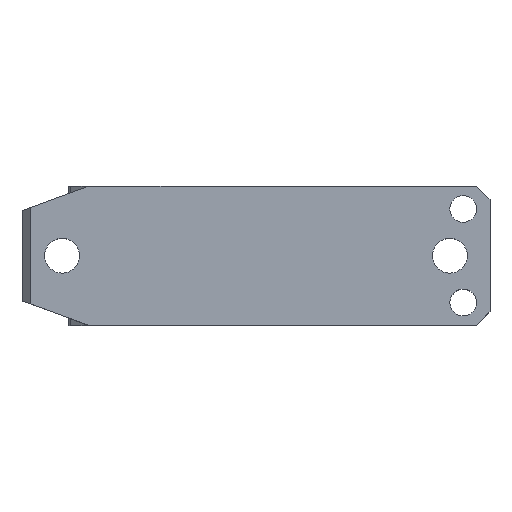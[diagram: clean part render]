
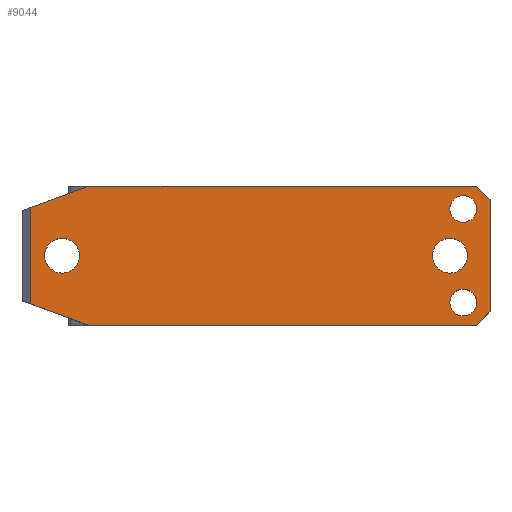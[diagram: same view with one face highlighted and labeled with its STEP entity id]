
A CAD part, top view. The second image highlights one B-rep face of the part: STEP entity #9044.
In plain terms, the highlighted planar face has unit normal (0, 0, 1).
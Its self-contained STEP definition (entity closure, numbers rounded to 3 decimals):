
#104 = ORIENTED_EDGE ( 'NONE', *, *, #5748, .T. ) ;
#230 = FACE_BOUND ( 'NONE', #7357, .T. ) ;
#253 = DIRECTION ( 'NONE',  ( -1., 0., 0. ) ) ;
#321 = CARTESIAN_POINT ( 'NONE',  ( -22., 0., 125. ) ) ;
#416 = AXIS2_PLACEMENT_3D ( 'NONE', #321, #6820, #1247 ) ;
#440 = CARTESIAN_POINT ( 'NONE',  ( -12., 26., 125. ) ) ;
#466 = LINE ( 'NONE', #7681, #2029 ) ;
#485 = CARTESIAN_POINT ( 'NONE',  ( 123., 0., 125. ) ) ;
#520 = VERTEX_POINT ( 'NONE', #2111 ) ;
#523 = CIRCLE ( 'NONE', #4905, 5. ) ;
#541 = EDGE_CURVE ( 'NONE', #2462, #11656, #466, .T. ) ;
#563 = CIRCLE ( 'NONE', #9062, 6.5 ) ;
#576 = VECTOR ( 'NONE', #4380, 1000. ) ;
#649 = ORIENTED_EDGE ( 'NONE', *, *, #9102, .F. ) ;
#748 = CARTESIAN_POINT ( 'NONE',  ( 133., -17.5, 125. ) ) ;
#819 = DIRECTION ( 'NONE',  ( 0., 0., -1. ) ) ;
#872 = CIRCLE ( 'NONE', #1808, 5. ) ;
#883 = EDGE_CURVE ( 'NONE', #1614, #10210, #1321, .T. ) ;
#888 = VERTEX_POINT ( 'NONE', #748 ) ;
#956 = EDGE_CURVE ( 'NONE', #888, #3661, #7848, .T. ) ;
#991 = CARTESIAN_POINT ( 'NONE',  ( 128., 17.5, 125. ) ) ;
#1091 = VERTEX_POINT ( 'NONE', #8511 ) ;
#1247 = DIRECTION ( 'NONE',  ( -1., 0., 0. ) ) ;
#1316 = PLANE ( 'NONE',  #2781 ) ;
#1321 = LINE ( 'NONE', #6298, #10593 ) ;
#1347 = CIRCLE ( 'NONE', #416, 6.5 ) ;
#1414 = DIRECTION ( 'NONE',  ( -1., 0., 0. ) ) ;
#1535 = CARTESIAN_POINT ( 'NONE',  ( 128., 17.5, 125. ) ) ;
#1614 = VERTEX_POINT ( 'NONE', #2898 ) ;
#1643 = CIRCLE ( 'NONE', #3184, 5. ) ;
#1651 = CARTESIAN_POINT ( 'NONE',  ( 129.5, 0., 125. ) ) ;
#1808 = AXIS2_PLACEMENT_3D ( 'NONE', #3690, #10177, #4642 ) ;
#1888 = DIRECTION ( 'NONE',  ( -1., 0., 0. ) ) ;
#1923 = EDGE_CURVE ( 'NONE', #11005, #6886, #523, .T. ) ;
#2029 = VECTOR ( 'NONE', #9538, 1000. ) ;
#2111 = CARTESIAN_POINT ( 'NONE',  ( -12., -26., 125. ) ) ;
#2118 = ORIENTED_EDGE ( 'NONE', *, *, #883, .T. ) ;
#2236 = DIRECTION ( 'NONE',  ( -1., 0., 0. ) ) ;
#2246 = ORIENTED_EDGE ( 'NONE', *, *, #7248, .T. ) ;
#2276 = CARTESIAN_POINT ( 'NONE',  ( -37., -16.901, 125. ) ) ;
#2280 = EDGE_CURVE ( 'NONE', #6886, #11005, #1643, .T. ) ;
#2399 = FACE_OUTER_BOUND ( 'NONE', #4305, .T. ) ;
#2462 = VERTEX_POINT ( 'NONE', #5551 ) ;
#2464 = VECTOR ( 'NONE', #9944, 1000. ) ;
#2466 = DIRECTION ( 'NONE',  ( -1., 0., 0. ) ) ;
#2574 = CIRCLE ( 'NONE', #2765, 6.5 ) ;
#2678 = FACE_BOUND ( 'NONE', #2940, .T. ) ;
#2725 = LINE ( 'NONE', #10109, #3019 ) ;
#2765 = AXIS2_PLACEMENT_3D ( 'NONE', #6367, #819, #7305 ) ;
#2781 = AXIS2_PLACEMENT_3D ( 'NONE', #4082, #7810, #2236 ) ;
#2798 = EDGE_CURVE ( 'NONE', #1614, #7591, #6009, .T. ) ;
#2898 = CARTESIAN_POINT ( 'NONE',  ( -34., 17.993, 125. ) ) ;
#2940 = EDGE_LOOP ( 'NONE', ( #7608, #7159 ) ) ;
#2943 = AXIS2_PLACEMENT_3D ( 'NONE', #11339, #5812, #253 ) ;
#3019 = VECTOR ( 'NONE', #6394, 1000. ) ;
#3051 = CARTESIAN_POINT ( 'NONE',  ( 138., 21., 125. ) ) ;
#3184 = AXIS2_PLACEMENT_3D ( 'NONE', #1535, #8026, #2466 ) ;
#3199 = EDGE_CURVE ( 'NONE', #3876, #11426, #1347, .T. ) ;
#3217 = CARTESIAN_POINT ( 'NONE',  ( -37., 16.901, 125. ) ) ;
#3596 = CARTESIAN_POINT ( 'NONE',  ( 128., -17.5, 125. ) ) ;
#3661 = VERTEX_POINT ( 'NONE', #10106 ) ;
#3690 = CARTESIAN_POINT ( 'NONE',  ( 128., -17.5, 125. ) ) ;
#3876 = VERTEX_POINT ( 'NONE', #8652 ) ;
#3987 = CIRCLE ( 'NONE', #2943, 6.5 ) ;
#4082 = CARTESIAN_POINT ( 'NONE',  ( -37., 26., 125. ) ) ;
#4305 = EDGE_LOOP ( 'NONE', ( #5263, #2118, #649, #7486, #4341, #8089, #9681, #6744 ) ) ;
#4341 = ORIENTED_EDGE ( 'NONE', *, *, #11858, .F. ) ;
#4380 = DIRECTION ( 'NONE',  ( 0., -1., 0. ) ) ;
#4549 = DIRECTION ( 'NONE',  ( -1., 0., 0. ) ) ;
#4642 = DIRECTION ( 'NONE',  ( -1., 0., 0. ) ) ;
#4872 = FACE_BOUND ( 'NONE', #7204, .T. ) ;
#4880 = VECTOR ( 'NONE', #8003, 1000. ) ;
#4905 = AXIS2_PLACEMENT_3D ( 'NONE', #991, #7482, #1888 ) ;
#4908 = CARTESIAN_POINT ( 'NONE',  ( 123., 17.5, 125. ) ) ;
#5179 = LINE ( 'NONE', #10753, #4880 ) ;
#5263 = ORIENTED_EDGE ( 'NONE', *, *, #2798, .F. ) ;
#5320 = EDGE_CURVE ( 'NONE', #520, #11104, #11752, .T. ) ;
#5332 = CARTESIAN_POINT ( 'NONE',  ( -34., -17.993, 125. ) ) ;
#5356 = DIRECTION ( 'NONE',  ( 0., -1., 0. ) ) ;
#5497 = LINE ( 'NONE', #9930, #576 ) ;
#5551 = CARTESIAN_POINT ( 'NONE',  ( 133., 26., 125. ) ) ;
#5628 = EDGE_LOOP ( 'NONE', ( #104, #5929 ) ) ;
#5707 = VECTOR ( 'NONE', #9714, 1000. ) ;
#5748 = EDGE_CURVE ( 'NONE', #3661, #888, #872, .T. ) ;
#5812 = DIRECTION ( 'NONE',  ( 0., 0., -1. ) ) ;
#5929 = ORIENTED_EDGE ( 'NONE', *, *, #956, .T. ) ;
#6009 = LINE ( 'NONE', #3217, #5707 ) ;
#6207 = EDGE_CURVE ( 'NONE', #11656, #1091, #5497, .T. ) ;
#6298 = CARTESIAN_POINT ( 'NONE',  ( -34., 26., 125. ) ) ;
#6367 = CARTESIAN_POINT ( 'NONE',  ( 123., 0., 125. ) ) ;
#6394 = DIRECTION ( 'NONE',  ( 1., 0., 0. ) ) ;
#6664 = EDGE_CURVE ( 'NONE', #10687, #11403, #563, .T. ) ;
#6744 = ORIENTED_EDGE ( 'NONE', *, *, #6921, .F. ) ;
#6820 = DIRECTION ( 'NONE',  ( 0., 0., -1. ) ) ;
#6886 = VERTEX_POINT ( 'NONE', #8208 ) ;
#6921 = EDGE_CURVE ( 'NONE', #7591, #2462, #2725, .T. ) ;
#6978 = DIRECTION ( 'NONE',  ( 0., 0., -1. ) ) ;
#7159 = ORIENTED_EDGE ( 'NONE', *, *, #2280, .T. ) ;
#7204 = EDGE_LOOP ( 'NONE', ( #2246, #7863 ) ) ;
#7248 = EDGE_CURVE ( 'NONE', #11403, #10687, #2574, .T. ) ;
#7305 = DIRECTION ( 'NONE',  ( -1., 0., 0. ) ) ;
#7355 = FACE_BOUND ( 'NONE', #5628, .T. ) ;
#7357 = EDGE_LOOP ( 'NONE', ( #7696, #7790 ) ) ;
#7482 = DIRECTION ( 'NONE',  ( 0., 0., -1. ) ) ;
#7486 = ORIENTED_EDGE ( 'NONE', *, *, #5320, .T. ) ;
#7591 = VERTEX_POINT ( 'NONE', #440 ) ;
#7608 = ORIENTED_EDGE ( 'NONE', *, *, #1923, .T. ) ;
#7681 = CARTESIAN_POINT ( 'NONE',  ( 133., 26., 125. ) ) ;
#7696 = ORIENTED_EDGE ( 'NONE', *, *, #9555, .T. ) ;
#7790 = ORIENTED_EDGE ( 'NONE', *, *, #3199, .T. ) ;
#7810 = DIRECTION ( 'NONE',  ( 0., 0., -1. ) ) ;
#7844 = DIRECTION ( 'NONE',  ( -0.94, 0.342, 0. ) ) ;
#7848 = CIRCLE ( 'NONE', #10388, 5. ) ;
#7863 = ORIENTED_EDGE ( 'NONE', *, *, #6664, .T. ) ;
#8003 = DIRECTION ( 'NONE',  ( -0.707, -0.707, 0. ) ) ;
#8026 = DIRECTION ( 'NONE',  ( 0., 0., -1. ) ) ;
#8089 = ORIENTED_EDGE ( 'NONE', *, *, #6207, .F. ) ;
#8208 = CARTESIAN_POINT ( 'NONE',  ( 133., 17.5, 125. ) ) ;
#8286 = CARTESIAN_POINT ( 'NONE',  ( 116.5, 0., 125. ) ) ;
#8511 = CARTESIAN_POINT ( 'NONE',  ( 138., -21., 125. ) ) ;
#8652 = CARTESIAN_POINT ( 'NONE',  ( -15.5, 0., 125. ) ) ;
#9044 = ADVANCED_FACE ( 'NONE', ( #7355, #2678, #230, #4872, #2399 ), #1316, .F. ) ;
#9062 = AXIS2_PLACEMENT_3D ( 'NONE', #485, #6978, #1414 ) ;
#9102 = EDGE_CURVE ( 'NONE', #520, #10210, #9201, .T. ) ;
#9201 = LINE ( 'NONE', #2276, #11389 ) ;
#9251 = CARTESIAN_POINT ( 'NONE',  ( -28.5, 0., 125. ) ) ;
#9538 = DIRECTION ( 'NONE',  ( 0.707, -0.707, 0. ) ) ;
#9555 = EDGE_CURVE ( 'NONE', #11426, #3876, #3987, .T. ) ;
#9681 = ORIENTED_EDGE ( 'NONE', *, *, #541, .F. ) ;
#9714 = DIRECTION ( 'NONE',  ( 0.94, 0.342, 0. ) ) ;
#9930 = CARTESIAN_POINT ( 'NONE',  ( 138., 26., 125. ) ) ;
#9944 = DIRECTION ( 'NONE',  ( 1., 0., 0. ) ) ;
#10088 = DIRECTION ( 'NONE',  ( 0., 0., -1. ) ) ;
#10106 = CARTESIAN_POINT ( 'NONE',  ( 123., -17.5, 125. ) ) ;
#10109 = CARTESIAN_POINT ( 'NONE',  ( -37., 26., 125. ) ) ;
#10177 = DIRECTION ( 'NONE',  ( 0., 0., -1. ) ) ;
#10210 = VERTEX_POINT ( 'NONE', #5332 ) ;
#10388 = AXIS2_PLACEMENT_3D ( 'NONE', #3596, #10088, #4549 ) ;
#10571 = CARTESIAN_POINT ( 'NONE',  ( 133., -26., 125. ) ) ;
#10593 = VECTOR ( 'NONE', #5356, 1000. ) ;
#10687 = VERTEX_POINT ( 'NONE', #1651 ) ;
#10753 = CARTESIAN_POINT ( 'NONE',  ( 133., -26., 125. ) ) ;
#11005 = VERTEX_POINT ( 'NONE', #4908 ) ;
#11104 = VERTEX_POINT ( 'NONE', #10571 ) ;
#11339 = CARTESIAN_POINT ( 'NONE',  ( -22., 0., 125. ) ) ;
#11389 = VECTOR ( 'NONE', #7844, 1000. ) ;
#11403 = VERTEX_POINT ( 'NONE', #8286 ) ;
#11426 = VERTEX_POINT ( 'NONE', #9251 ) ;
#11656 = VERTEX_POINT ( 'NONE', #3051 ) ;
#11752 = LINE ( 'NONE', #11813, #2464 ) ;
#11813 = CARTESIAN_POINT ( 'NONE',  ( -37., -26., 125. ) ) ;
#11858 = EDGE_CURVE ( 'NONE', #1091, #11104, #5179, .T. ) ;
